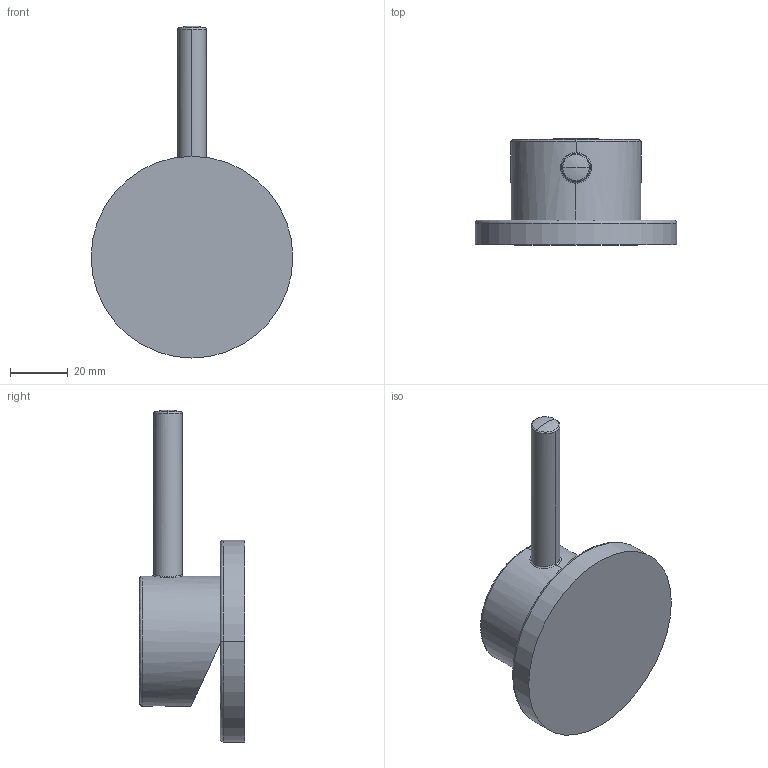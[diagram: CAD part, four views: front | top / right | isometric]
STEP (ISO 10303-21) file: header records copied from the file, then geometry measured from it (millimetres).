
FILE_DESCRIPTION (( 'STEP AP214' ), '1' );
FILE_NAME ('12211410 x architetti.STEP', '2024-09-16T08:42:32', ( '' ), ( '' ), 'SwSTEP 2.0', 'SolidWorks 2020', '' );
FILE_SCHEMA (( 'AUTOMOTIVE_DESIGN' ));
Length unit declared in the file: millimetre
Products named in the file (1): 12211410 x architetti
Bounding box: 69.8 x 36.64 x 114.9 mm (x, y, z)
Volume: 71933.9 mm3; surface area: 18675 mm2
Topology: 1 solids, 1 shells, 30 faces, 71 edges, 41 vertices
Faces by surface type: cylinder 12, bspline 11, plane 3, cone 2, torus 2
Entity records: 1838 total; most frequent: CARTESIAN_POINT 902, ORIENTED_EDGE 138, DIRECTION 121, EDGE_CURVE 69, AXIS2_PLACEMENT_3D 52, VERTEX_POINT 41, CIRCLE 32, EDGE_LOOP 32
